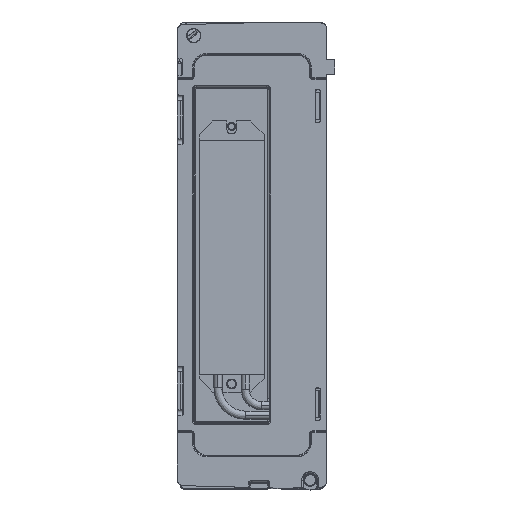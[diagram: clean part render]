
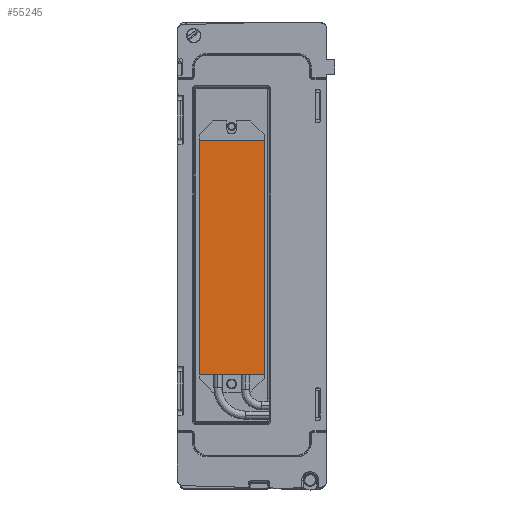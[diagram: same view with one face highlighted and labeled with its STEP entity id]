
A CAD part, top view. The second image highlights one B-rep face of the part: STEP entity #55245.
In plain terms, the highlighted planar face has unit normal (0, 0, -1).
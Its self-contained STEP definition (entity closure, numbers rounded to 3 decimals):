
#3687 = EDGE_LOOP ( 'NONE', ( #37507, #165354, #91200, #104521 ) ) ;
#12964 = DIRECTION ( 'NONE',  ( 0., 1., 0. ) ) ;
#13360 = CARTESIAN_POINT ( 'NONE',  ( 34.424, -20.857, 276. ) ) ;
#21839 = CARTESIAN_POINT ( 'NONE',  ( 10.424, -64.107, 276. ) ) ;
#23315 = DIRECTION ( 'NONE',  ( 1., 0., 0. ) ) ;
#32289 = LINE ( 'NONE', #148188, #146419 ) ;
#37507 = ORIENTED_EDGE ( 'NONE', *, *, #184214, .T. ) ;
#54107 = VERTEX_POINT ( 'NONE', #200230 ) ;
#55245 = ADVANCED_FACE ( 'NONE', ( #132156 ), #76772, .T. ) ;
#70945 = VECTOR ( 'NONE', #247785, 1000. ) ;
#75503 = DIRECTION ( 'NONE',  ( 0., 0., -1. ) ) ;
#76772 = PLANE ( 'NONE',  #151965 ) ;
#91200 = ORIENTED_EDGE ( 'NONE', *, *, #140590, .T. ) ;
#104521 = ORIENTED_EDGE ( 'NONE', *, *, #193140, .T. ) ;
#110058 = VERTEX_POINT ( 'NONE', #175827 ) ;
#129089 = VERTEX_POINT ( 'NONE', #242075 ) ;
#132156 = FACE_OUTER_BOUND ( 'NONE', #3687, .T. ) ;
#140590 = EDGE_CURVE ( 'NONE', #54107, #129089, #199713, .T. ) ;
#146419 = VECTOR ( 'NONE', #12964, 1000. ) ;
#148188 = CARTESIAN_POINT ( 'NONE',  ( 10.424, -20.857, 276. ) ) ;
#151965 = AXIS2_PLACEMENT_3D ( 'NONE', #250698, #75503, #249434 ) ;
#163183 = DIRECTION ( 'NONE',  ( -1., 0., 0. ) ) ;
#164447 = LINE ( 'NONE', #224962, #242385 ) ;
#165354 = ORIENTED_EDGE ( 'NONE', *, *, #209991, .T. ) ;
#169186 = LINE ( 'NONE', #13360, #70945 ) ;
#175827 = CARTESIAN_POINT ( 'NONE',  ( 34.424, -64.107, 276. ) ) ;
#184214 = EDGE_CURVE ( 'NONE', #110058, #232538, #164447, .T. ) ;
#193140 = EDGE_CURVE ( 'NONE', #129089, #110058, #169186, .T. ) ;
#195901 = CARTESIAN_POINT ( 'NONE',  ( 22.424, 22.393, 276. ) ) ;
#199713 = LINE ( 'NONE', #195901, #217468 ) ;
#200230 = CARTESIAN_POINT ( 'NONE',  ( 10.424, 22.393, 276. ) ) ;
#209991 = EDGE_CURVE ( 'NONE', #232538, #54107, #32289, .T. ) ;
#217468 = VECTOR ( 'NONE', #23315, 1000. ) ;
#224962 = CARTESIAN_POINT ( 'NONE',  ( 22.424, -64.107, 276. ) ) ;
#232538 = VERTEX_POINT ( 'NONE', #21839 ) ;
#242075 = CARTESIAN_POINT ( 'NONE',  ( 34.424, 22.393, 276. ) ) ;
#242385 = VECTOR ( 'NONE', #163183, 1000. ) ;
#247785 = DIRECTION ( 'NONE',  ( 0., -1., 0. ) ) ;
#249434 = DIRECTION ( 'NONE',  ( 0., 1., 0. ) ) ;
#250698 = CARTESIAN_POINT ( 'NONE',  ( 10.424, -64.107, 276. ) ) ;
